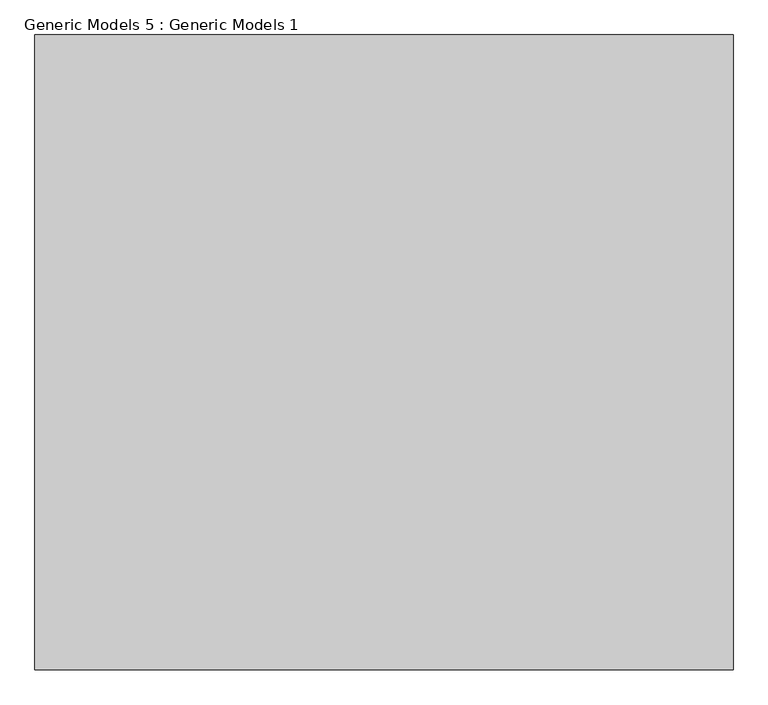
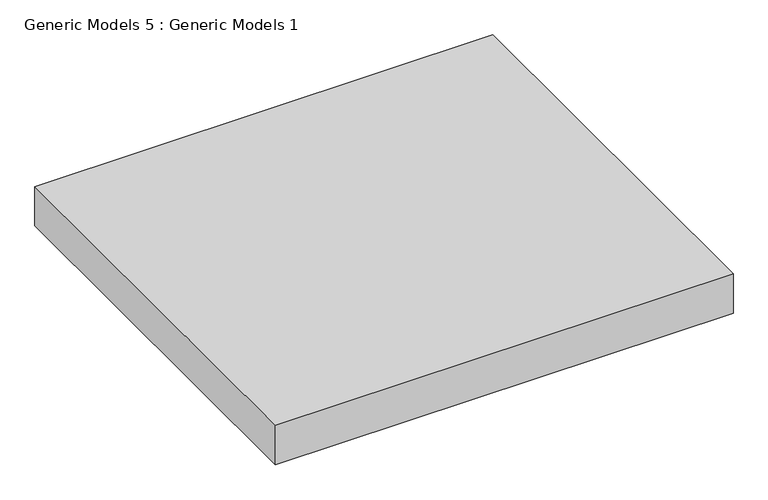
"""IFC4 building model written with IfcOpenShell, lengths in millimetres: proxy geometry, Generic Models 5 : Generic Models 1."""

from ifc_helpers import new_model, si_unit, origin, origin_with_axes, place, context, project, spatial, polyline, outline, extrude, source, transform, mapped, element, save


def generic_models_5_generic_models_1_ef61b294(model_context):
    return source(origin(), model_context, "Body", "SweptSolid", [
        extrude(outline(polyline([(-10262.8148829, -2714.1210758), (-10262.8148829, -1714.1210758), (-9162.8148829, -1714.1210758), (-9162.8148829, -2714.1210758), (-10262.8148829, -2714.1210758)])), origin_with_axes(), (0.0, 0.0, 1.0), 100.0),
    ])


if __name__ == "__main__":
    model = new_model("IFC4")
    model_context = context("Model", 3, world=origin())
    ifc_project = project(units=[si_unit("LENGTHUNIT", "METRE", prefix="MILLI")], contexts=[model_context])
    site = spatial("IfcSite", under=ifc_project)
    building = spatial("IfcBuilding", under=site)
    placement = place(None, origin())
    generic_models_5_generic_models_1_shape = generic_models_5_generic_models_1_ef61b294(model_context)
    element("IfcBuildingElementProxy", 1, Name="Generic Models 5 : Generic Models 1", ObjectType="Generic Models 5 : Generic Models 1", at=placement, inside=building, context=model_context, shape_type="MappedRepresentation", body=[
        mapped(generic_models_5_generic_models_1_shape, transform((0.0, 0.0, 0.0), x_axis=(1.0, 0.0, 0.0), y_axis=(0.0, 1.0, 0.0), z_axis=(0.0, 0.0, 1.0))),
    ])
    save(model, "model.ifc")
